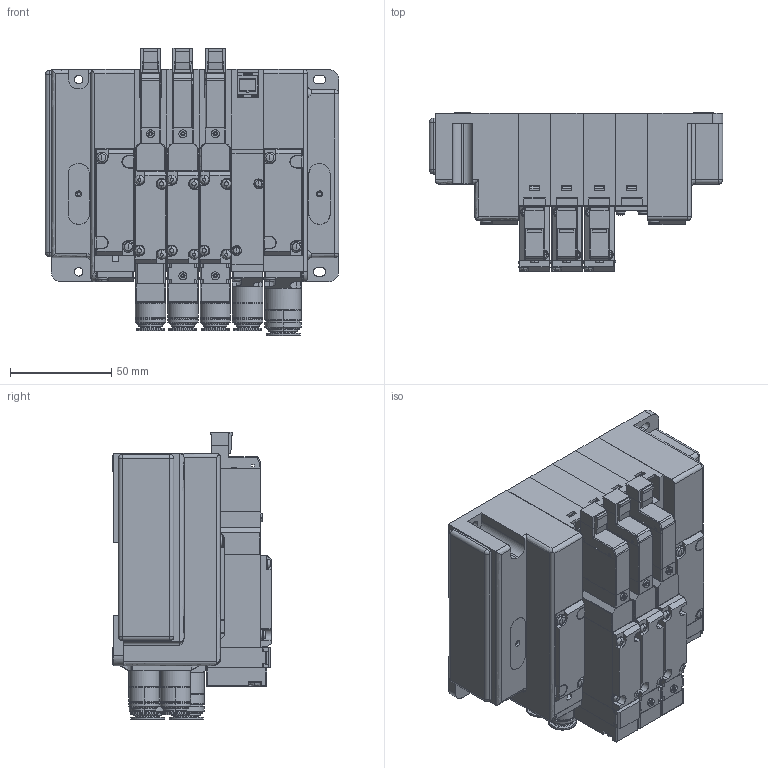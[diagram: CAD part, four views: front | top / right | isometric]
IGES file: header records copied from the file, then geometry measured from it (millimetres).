
Start section: ------------------------------------------------------------------------
Global section: file name: D:\ICADMX\tmp\trans3d_spg\CVICAD02.5220.F15M4XNJ-JR_16230.igs; native system: spGate; preprocessor: ver12.6.6; author: Unknown; organization: Unknown; date: 210712.184609; units: millimetre
Bounding box: 145 x 78.1 x 142.1 mm (x, y, z)
Volume: 807120.3 mm3; surface area: 211935 mm2
Topology: 39 solids, 39 shells, 3396 faces, 8701 edges, 5570 vertices
Faces by surface type: bspline 3396
